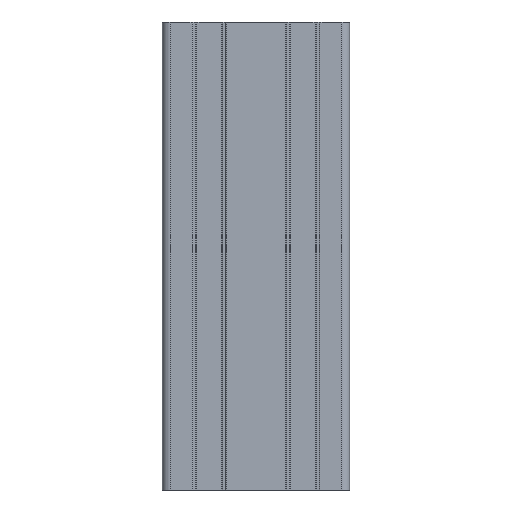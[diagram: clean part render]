
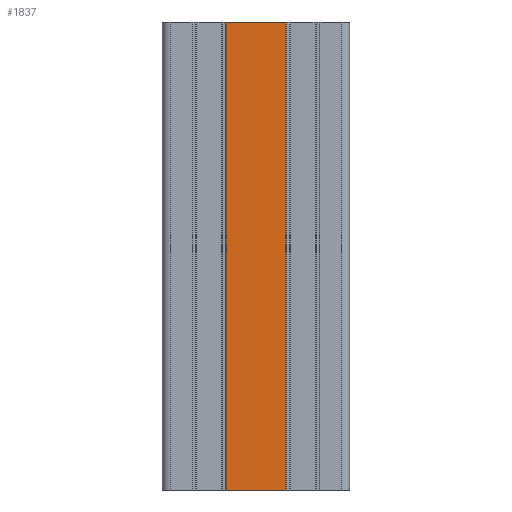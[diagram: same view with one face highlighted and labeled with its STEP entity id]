
A CAD part, front view. The second image highlights one B-rep face of the part: STEP entity #1837.
In plain terms, the highlighted planar face has unit normal (0, -1, 0).
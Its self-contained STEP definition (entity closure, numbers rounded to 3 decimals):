
#1779=CARTESIAN_POINT('',(214.618,98.237,150.0));
#1780=VERTEX_POINT('',#1779);
#1788=CARTESIAN_POINT('',(214.618,98.237,0.0));
#1789=VERTEX_POINT('',#1788);
#1790=CARTESIAN_POINT('',(214.618,98.237,0.0));
#1791=DIRECTION('',(0.0,0.0,1.0));
#1792=VECTOR('',#1791,150.0);
#1793=LINE('',#1790,#1792);
#1794=EDGE_CURVE('',#1789,#1780,#1793,.T.);
#1807=CARTESIAN_POINT('',(214.618,98.237,0.0));
#1808=DIRECTION('',(0.0,-1.0,0.0));
#1809=DIRECTION('',(0.0,0.0,-1.0));
#1810=AXIS2_PLACEMENT_3D('',#1807,#1808,#1809);
#1811=PLANE('',#1810);
#1812=CARTESIAN_POINT('',(195.618,98.237,150.0));
#1813=VERTEX_POINT('',#1812);
#1814=CARTESIAN_POINT('',(214.618,98.237,150.0));
#1815=DIRECTION('',(-1.0,0.0,0.0));
#1816=VECTOR('',#1815,19.);
#1817=LINE('',#1814,#1816);
#1818=EDGE_CURVE('',#1780,#1813,#1817,.T.);
#1819=ORIENTED_EDGE('',*,*,#1818,.T.);
#1820=CARTESIAN_POINT('',(195.618,98.237,0.0));
#1821=VERTEX_POINT('',#1820);
#1822=CARTESIAN_POINT('',(195.618,98.237,0.0));
#1823=DIRECTION('',(0.0,0.0,1.0));
#1824=VECTOR('',#1823,150.0);
#1825=LINE('',#1822,#1824);
#1826=EDGE_CURVE('',#1821,#1813,#1825,.T.);
#1827=ORIENTED_EDGE('',*,*,#1826,.F.);
#1828=CARTESIAN_POINT('',(214.618,98.237,0.0));
#1829=DIRECTION('',(-1.0,0.0,0.0));
#1830=VECTOR('',#1829,19.);
#1831=LINE('',#1828,#1830);
#1832=EDGE_CURVE('',#1789,#1821,#1831,.T.);
#1833=ORIENTED_EDGE('',*,*,#1832,.F.);
#1834=ORIENTED_EDGE('',*,*,#1794,.T.);
#1835=EDGE_LOOP('',(#1819,#1827,#1833,#1834));
#1836=FACE_OUTER_BOUND('',#1835,.T.);
#1837=ADVANCED_FACE('',(#1836),#1811,.T.);
